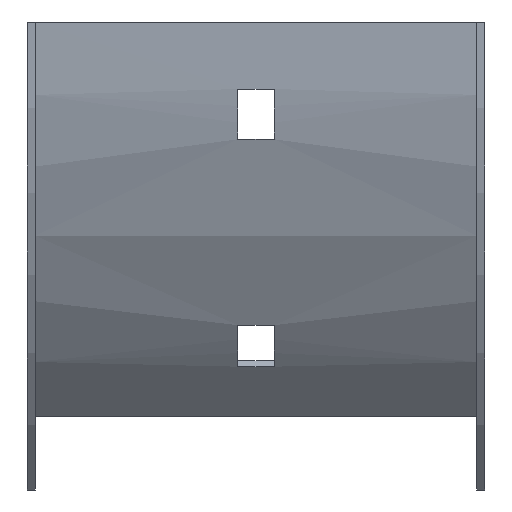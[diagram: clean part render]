
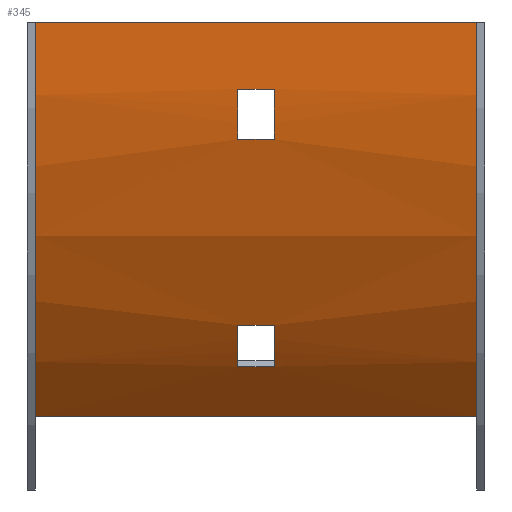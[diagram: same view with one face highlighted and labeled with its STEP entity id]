
A CAD part, front view. The second image highlights one B-rep face of the part: STEP entity #345.
In plain terms, the highlighted cylindrical face has radius 100 mm (diameter 200 mm), a partial arc.
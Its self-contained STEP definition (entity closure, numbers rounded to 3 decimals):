
#1 = VERTEX_POINT ( 'NONE', #248 ) ;
#2 = DIRECTION ( 'NONE',  ( -1., 0., 0. ) ) ;
#5 = EDGE_CURVE ( 'NONE', #418, #341, #169, .T. ) ;
#7 = AXIS2_PLACEMENT_3D ( 'NONE', #244, #2, #145 ) ;
#10 = VECTOR ( 'NONE', #580, 1000. ) ;
#15 = ORIENTED_EDGE ( 'NONE', *, *, #592, .T. ) ;
#42 = ORIENTED_EDGE ( 'NONE', *, *, #5, .F. ) ;
#44 = DIRECTION ( 'NONE',  ( 0., 0., 1. ) ) ;
#48 = VECTOR ( 'NONE', #515, 1000. ) ;
#51 = CYLINDRICAL_SURFACE ( 'NONE', #7, 100. ) ;
#53 = LINE ( 'NONE', #56, #510 ) ;
#56 = CARTESIAN_POINT ( 'NONE',  ( 41., 19.815, -61.714 ) ) ;
#59 = CARTESIAN_POINT ( 'NONE',  ( 3.25, 14.517, -54.285 ) ) ;
#60 = DIRECTION ( 'NONE',  ( -1., 0., 0. ) ) ;
#62 = EDGE_CURVE ( 'NONE', #1, #341, #208, .T. ) ;
#80 = CIRCLE ( 'NONE', #520, 100. ) ;
#81 = VERTEX_POINT ( 'NONE', #269 ) ;
#83 = CARTESIAN_POINT ( 'NONE',  ( 41., -0.777, -12. ) ) ;
#86 = DIRECTION ( 'NONE',  ( 1., 0., 0. ) ) ;
#89 = AXIS2_PLACEMENT_3D ( 'NONE', #503, #86, #573 ) ;
#91 = LINE ( 'NONE', #133, #48 ) ;
#93 = VERTEX_POINT ( 'NONE', #443 ) ;
#96 = FACE_BOUND ( 'NONE', #346, .T. ) ;
#103 = VERTEX_POINT ( 'NONE', #362 ) ;
#109 = CARTESIAN_POINT ( 'NONE',  ( 39.5, 27.789, -70.711 ) ) ;
#120 = LINE ( 'NONE', #83, #452 ) ;
#129 = CIRCLE ( 'NONE', #89, 100. ) ;
#133 = CARTESIAN_POINT ( 'NONE',  ( 39.5, 27.789, -70.711 ) ) ;
#144 = VERTEX_POINT ( 'NONE', #577 ) ;
#145 = DIRECTION ( 'NONE',  ( 0., 0., 1. ) ) ;
#152 = ORIENTED_EDGE ( 'NONE', *, *, #354, .F. ) ;
#161 = DIRECTION ( 'NONE',  ( -1., 0., 0. ) ) ;
#169 = CIRCLE ( 'NONE', #300, 100. ) ;
#172 = CARTESIAN_POINT ( 'NONE',  ( 3.25, -0.777, -12. ) ) ;
#179 = LINE ( 'NONE', #408, #10 ) ;
#184 = CARTESIAN_POINT ( 'NONE',  ( -39.5, 98.5, 0. ) ) ;
#192 = EDGE_CURVE ( 'NONE', #598, #256, #120, .T. ) ;
#208 = LINE ( 'NONE', #389, #317 ) ;
#213 = ORIENTED_EDGE ( 'NONE', *, *, #588, .T. ) ;
#221 = DIRECTION ( 'NONE',  ( 0., 0., 1. ) ) ;
#227 = ORIENTED_EDGE ( 'NONE', *, *, #272, .T. ) ;
#241 = CARTESIAN_POINT ( 'NONE',  ( 3.25, 98.5, 0. ) ) ;
#244 = CARTESIAN_POINT ( 'NONE',  ( 41., 98.5, 0. ) ) ;
#248 = CARTESIAN_POINT ( 'NONE',  ( 39.5, -1.5, 0. ) ) ;
#255 = CARTESIAN_POINT ( 'NONE',  ( 41., 0.73, -21. ) ) ;
#256 = VERTEX_POINT ( 'NONE', #428 ) ;
#269 = CARTESIAN_POINT ( 'NONE',  ( -3.25, 19.815, -61.714 ) ) ;
#272 = EDGE_CURVE ( 'NONE', #424, #103, #442, .T. ) ;
#277 = ORIENTED_EDGE ( 'NONE', *, *, #412, .T. ) ;
#278 = DIRECTION ( 'NONE',  ( -1., 0., 0. ) ) ;
#286 = FACE_BOUND ( 'NONE', #558, .T. ) ;
#291 = DIRECTION ( 'NONE',  ( 1., 0., 0. ) ) ;
#297 = EDGE_CURVE ( 'NONE', #144, #598, #386, .T. ) ;
#300 = AXIS2_PLACEMENT_3D ( 'NONE', #184, #436, #568 ) ;
#317 = VECTOR ( 'NONE', #60, 1000. ) ;
#325 = CARTESIAN_POINT ( 'NONE',  ( -39.5, -1.5, 0. ) ) ;
#328 = EDGE_CURVE ( 'NONE', #459, #418, #91, .T. ) ;
#341 = VERTEX_POINT ( 'NONE', #325 ) ;
#344 = DIRECTION ( 'NONE',  ( 1., 0., 0. ) ) ;
#345 = ADVANCED_FACE ( 'NONE', ( #286, #375, #96 ), #51, .T. ) ;
#346 = EDGE_LOOP ( 'NONE', ( #277, #420, #15, #227 ) ) ;
#354 = EDGE_CURVE ( 'NONE', #256, #93, #129, .T. ) ;
#359 = EDGE_CURVE ( 'NONE', #93, #144, #485, .T. ) ;
#362 = CARTESIAN_POINT ( 'NONE',  ( 3.25, 19.815, -61.714 ) ) ;
#371 = ORIENTED_EDGE ( 'NONE', *, *, #359, .F. ) ;
#374 = VECTOR ( 'NONE', #344, 1000. ) ;
#375 = FACE_OUTER_BOUND ( 'NONE', #432, .T. ) ;
#379 = EDGE_CURVE ( 'NONE', #81, #384, #435, .T. ) ;
#384 = VERTEX_POINT ( 'NONE', #441 ) ;
#385 = DIRECTION ( 'NONE',  ( 0., 0., -1. ) ) ;
#386 = CIRCLE ( 'NONE', #413, 100. ) ;
#388 = CARTESIAN_POINT ( 'NONE',  ( -3.25, 98.5, 0. ) ) ;
#389 = CARTESIAN_POINT ( 'NONE',  ( 39.5, -1.5, 0. ) ) ;
#392 = ORIENTED_EDGE ( 'NONE', *, *, #328, .F. ) ;
#398 = CARTESIAN_POINT ( 'NONE',  ( -39.5, 27.789, -70.711 ) ) ;
#408 = CARTESIAN_POINT ( 'NONE',  ( 41., 14.517, -54.285 ) ) ;
#412 = EDGE_CURVE ( 'NONE', #103, #81, #53, .T. ) ;
#413 = AXIS2_PLACEMENT_3D ( 'NONE', #241, #467, #606 ) ;
#418 = VERTEX_POINT ( 'NONE', #398 ) ;
#420 = ORIENTED_EDGE ( 'NONE', *, *, #379, .T. ) ;
#424 = VERTEX_POINT ( 'NONE', #59 ) ;
#428 = CARTESIAN_POINT ( 'NONE',  ( -3.25, -0.777, -12. ) ) ;
#432 = EDGE_LOOP ( 'NONE', ( #42, #392, #213, #454 ) ) ;
#433 = DIRECTION ( 'NONE',  ( -1., 0., 0. ) ) ;
#435 = CIRCLE ( 'NONE', #555, 100. ) ;
#436 = DIRECTION ( 'NONE',  ( -1., 0., 0. ) ) ;
#441 = CARTESIAN_POINT ( 'NONE',  ( -3.25, 14.517, -54.285 ) ) ;
#442 = CIRCLE ( 'NONE', #593, 100. ) ;
#443 = CARTESIAN_POINT ( 'NONE',  ( -3.25, 0.73, -21. ) ) ;
#452 = VECTOR ( 'NONE', #534, 1000. ) ;
#454 = ORIENTED_EDGE ( 'NONE', *, *, #62, .T. ) ;
#459 = VERTEX_POINT ( 'NONE', #109 ) ;
#467 = DIRECTION ( 'NONE',  ( -1., 0., 0. ) ) ;
#485 = LINE ( 'NONE', #255, #374 ) ;
#499 = ORIENTED_EDGE ( 'NONE', *, *, #297, .F. ) ;
#503 = CARTESIAN_POINT ( 'NONE',  ( -3.25, 98.5, 0. ) ) ;
#510 = VECTOR ( 'NONE', #433, 1000. ) ;
#515 = DIRECTION ( 'NONE',  ( -1., 0., 0. ) ) ;
#520 = AXIS2_PLACEMENT_3D ( 'NONE', #591, #278, #221 ) ;
#534 = DIRECTION ( 'NONE',  ( -1., 0., 0. ) ) ;
#542 = ORIENTED_EDGE ( 'NONE', *, *, #192, .F. ) ;
#555 = AXIS2_PLACEMENT_3D ( 'NONE', #388, #161, #385 ) ;
#558 = EDGE_LOOP ( 'NONE', ( #152, #542, #499, #371 ) ) ;
#562 = CARTESIAN_POINT ( 'NONE',  ( 3.25, 98.5, 0. ) ) ;
#568 = DIRECTION ( 'NONE',  ( 0., 0., 1. ) ) ;
#573 = DIRECTION ( 'NONE',  ( 0., 0., 1. ) ) ;
#577 = CARTESIAN_POINT ( 'NONE',  ( 3.25, 0.73, -21. ) ) ;
#580 = DIRECTION ( 'NONE',  ( 1., 0., 0. ) ) ;
#588 = EDGE_CURVE ( 'NONE', #459, #1, #80, .T. ) ;
#591 = CARTESIAN_POINT ( 'NONE',  ( 39.5, 98.5, 0. ) ) ;
#592 = EDGE_CURVE ( 'NONE', #384, #424, #179, .T. ) ;
#593 = AXIS2_PLACEMENT_3D ( 'NONE', #562, #291, #44 ) ;
#598 = VERTEX_POINT ( 'NONE', #172 ) ;
#606 = DIRECTION ( 'NONE',  ( 0., 0., -1. ) ) ;
